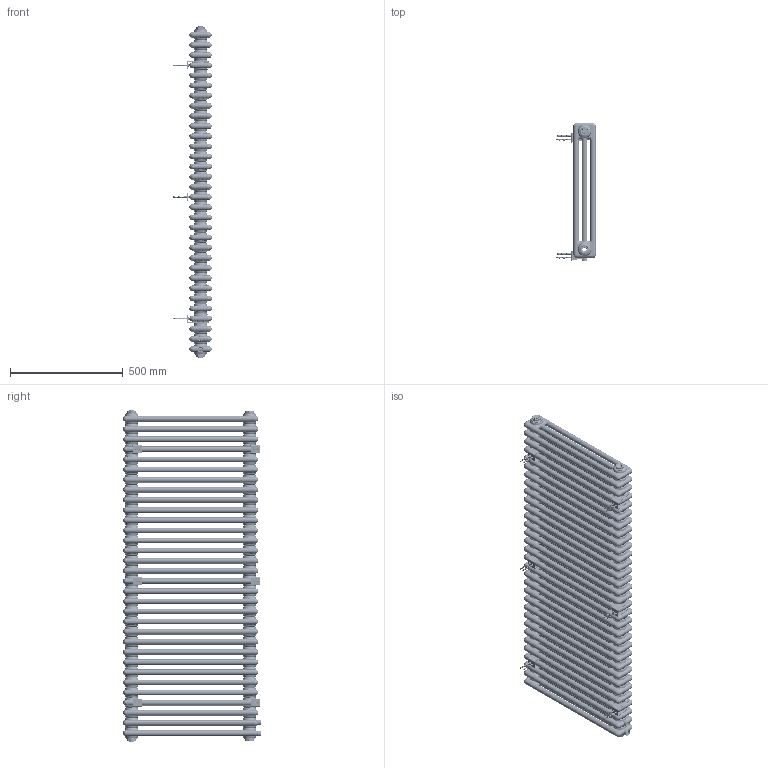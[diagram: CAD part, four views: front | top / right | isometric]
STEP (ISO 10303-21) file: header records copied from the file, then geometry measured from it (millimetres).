
FILE_DESCRIPTION(/* description */ (''),/* implementation_level */ '2;1');
FILE_NAME(/* name */ 'CL03 600x1460',/* time_stamp */ '2023-09-10T13:28:00+08:00',/* author */ (''),/* organization */ (''),/* preprocessor_version */ 'ST-DEVELOPER v9',/* originating_system */ 'UGS - NX 4.0',/* authorisation */ '');
FILE_SCHEMA (('CONFIG_CONTROL_DESIGN'));
Length unit declared in the file: millimetre
Products named in the file (1): Admi177Fr7yh
Bounding box: 176.1 x 613 x 1474 mm (x, y, z)
Volume: 5441201.1 mm3; surface area: 8934448.3 mm2
Topology: 59 solids, 59 shells, 9563 faces, 22857 edges, 13241 vertices
Faces by surface type: bspline 3015, cylinder 2153, torus 1820, plane 1760, cone 815
Full cylindrical faces by diameter (mm): 25 x2
Entity records: 572462 total; most frequent: CARTESIAN_POINT 372204, ORIENTED_EDGE 45666, DIRECTION 37317, EDGE_CURVE 22833, AXIS2_PLACEMENT_3D 16179, VERTEX_POINT 13243, EDGE_LOOP 9900, CIRCLE 9630
